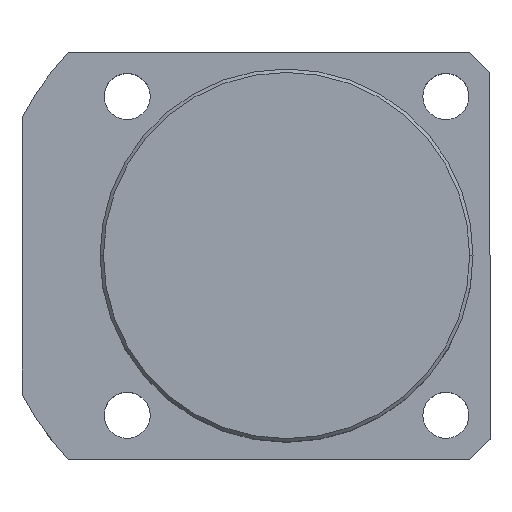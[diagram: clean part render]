
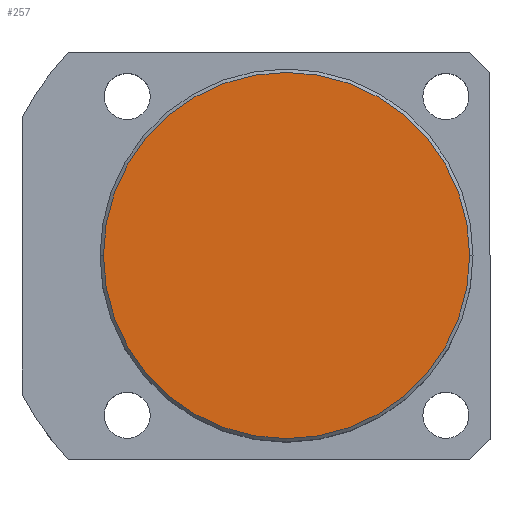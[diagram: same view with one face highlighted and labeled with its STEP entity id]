
A CAD part, top view. The second image highlights one B-rep face of the part: STEP entity #257.
In plain terms, the highlighted planar face has unit normal (0, 0, 1).
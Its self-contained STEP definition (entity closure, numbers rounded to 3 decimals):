
#242 = DIRECTION ( 'NONE',  ( 1., 0., 0. ) ) ;
#245 = FACE_OUTER_BOUND ( 'NONE', #864, .T. ) ;
#257 = ADVANCED_FACE ( 'NONE', ( #245 ), #1353, .T. ) ;
#384 = CIRCLE ( 'NONE', #854, 27. ) ;
#399 = AXIS2_PLACEMENT_3D ( 'NONE', #1270, #419, #1139 ) ;
#419 = DIRECTION ( 'NONE',  ( 0., 0., 1. ) ) ;
#720 = CIRCLE ( 'NONE', #399, 27. ) ;
#799 = CARTESIAN_POINT ( 'NONE',  ( 0., 0., 40. ) ) ;
#854 = AXIS2_PLACEMENT_3D ( 'NONE', #799, #1764, #242 ) ;
#864 = EDGE_LOOP ( 'NONE', ( #1043, #1132 ) ) ;
#920 = CARTESIAN_POINT ( 'NONE',  ( -27., 0., 40. ) ) ;
#947 = DIRECTION ( 'NONE',  ( 0., 0., 1. ) ) ;
#978 = AXIS2_PLACEMENT_3D ( 'NONE', #1224, #947, #1096 ) ;
#1043 = ORIENTED_EDGE ( 'NONE', *, *, #1475, .T. ) ;
#1067 = VERTEX_POINT ( 'NONE', #1808 ) ;
#1096 = DIRECTION ( 'NONE',  ( 1., 0., 0. ) ) ;
#1132 = ORIENTED_EDGE ( 'NONE', *, *, #1698, .T. ) ;
#1139 = DIRECTION ( 'NONE',  ( 1., 0., 0. ) ) ;
#1224 = CARTESIAN_POINT ( 'NONE',  ( 0., 0., 40. ) ) ;
#1263 = VERTEX_POINT ( 'NONE', #920 ) ;
#1270 = CARTESIAN_POINT ( 'NONE',  ( 0., 0., 40. ) ) ;
#1353 = PLANE ( 'NONE',  #978 ) ;
#1475 = EDGE_CURVE ( 'NONE', #1263, #1067, #384, .T. ) ;
#1698 = EDGE_CURVE ( 'NONE', #1067, #1263, #720, .T. ) ;
#1764 = DIRECTION ( 'NONE',  ( 0., 0., 1. ) ) ;
#1808 = CARTESIAN_POINT ( 'NONE',  ( 27., 0., 40. ) ) ;
